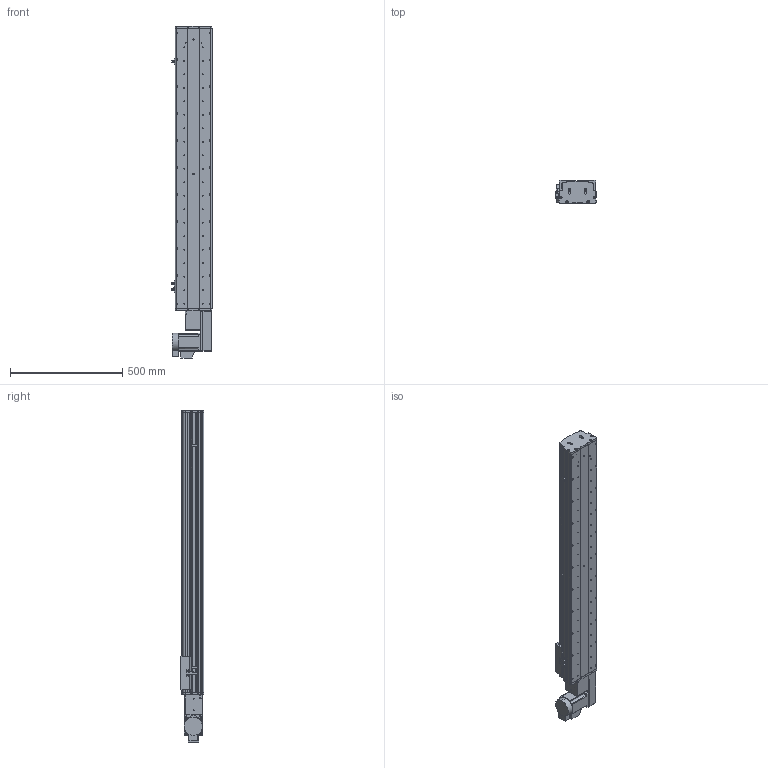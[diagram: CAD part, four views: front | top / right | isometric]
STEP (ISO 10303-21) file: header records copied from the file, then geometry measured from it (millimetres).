
FILE_DESCRIPTION (( 'STEP AP214' ), '1' );
FILE_NAME ('KSD165B-S1000-MRB-CM.STEP', '2017-10-16T08:57:14', ( '微软用户' ), ( '微软中国' ), 'SwSTEP 2.0', 'SolidWorks 2014', '' );
FILE_SCHEMA (( 'AUTOMOTIVE_DESIGN' ));
Length unit declared in the file: millimetre
Products named in the file (17): KSD165耀郪-ヶ傷啣1-肮祭湍; KSD165模组-后端板1-同步带; KSD165模组-同步带滑动座-最新版; KSD165B-S1000-MRB-CM; HTPA26S5M250-A-H8 750W萇儂蚚; HTPA26S5M250-A-H8 400W萇儂蚚 ; 130宽模组马达安装板连板左右折同步带; 130宽模组保护罩上下左右折-同步带; KSD165模组-同步带防尘盖1-1000行程; KSD165模组同步带底板-1000行程; 拸秶雄ん750W侜督萇儂; 165宽马达安装板同步带右; U倰嫖萇假蚾璃; U倰嫖萇EEㄜSX672; 覜茼え68遵圉猾敕; KSD165模组-同步带-防撞垫2; KSD165模组同步带-防撞垫1
Assembly tree (20 placements, depth 2):
  KSD165B-S1000-MRB-CM
    KSD165模组-同步带滑动座-最新版
    KSD165模组-后端板1-同步带
    KSD165耀郪-ヶ傷啣1-肮祭湍
    KSD165模组同步带-防撞垫1
    KSD165模组-同步带-防撞垫2
    覜茼え68遵圉猾敕
    U倰嫖萇EEㄜSX672  x3
    U倰嫖萇假蚾璃  x3
    165宽马达安装板同步带右
    拸秶雄ん750W侜督萇儂
    KSD165模组同步带底板-1000行程
    KSD165模组-同步带防尘盖1-1000行程
    130宽模组保护罩上下左右折-同步带
    130宽模组马达安装板连板左右折同步带
    HTPA26S5M250-A-H8 400W萇儂蚚 
    HTPA26S5M250-A-H8 750W萇儂蚚
Bounding box: 178.7 x 104 x 1477.5 mm (x, y, z)
Volume: 7916382.2 mm3; surface area: 1840841.4 mm2
Topology: 21 solids, 21 shells, 1975 faces, 5580 edges, 3644 vertices
Faces by surface type: cylinder 1275, plane 588, cone 112
Entity records: 64292 total; most frequent: CARTESIAN_POINT 13180, DIRECTION 10552, ORIENTED_EDGE 9820, EDGE_CURVE 4910, AXIS2_PLACEMENT_3D 4142, VERTEX_POINT 3236, CIRCLE 2364, LINE 2268
